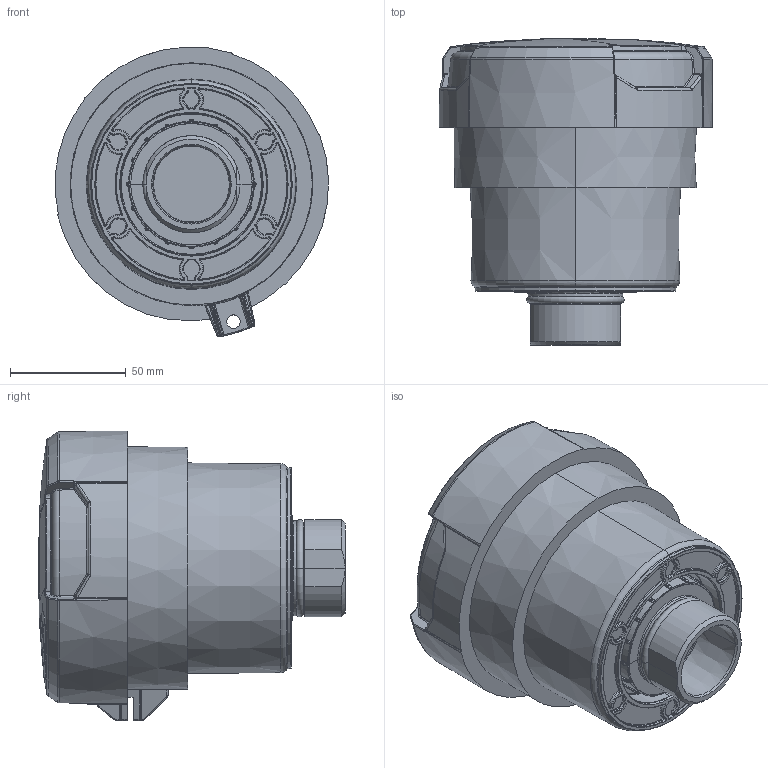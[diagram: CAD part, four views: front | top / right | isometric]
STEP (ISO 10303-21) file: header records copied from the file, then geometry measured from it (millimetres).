
FILE_DESCRIPTION((''),'2;1');
FILE_NAME('1000417934','2023-07-17T',('v.pichlmaier'),(''),'PRO/ENGINEER BY PARAMETRIC TECHNOLOGY CORPORATION, 2015110','PRO/ENGINEER BY PARAMETRIC TECHNOLOGY CORPORATION, 2015110','');
FILE_SCHEMA(('AUTOMOTIVE_DESIGN { 1 0 10303 214 1 1 1 1 }'));
Length unit declared in the file: millimetre
Products named in the file (1): 1000417934
Bounding box: 117.86 x 132.07 x 125.01 mm (x, y, z)
Volume: 893140.4 mm3; surface area: 66871.3 mm2
Topology: 1 solids, 2 shells, 1629 faces, 3826 edges, 2229 vertices
Faces by surface type: bspline 800, torus 223, plane 217, cylinder 163, cone 160, sphere 66
Entity records: 96362 total; most frequent: CARTESIAN_POINT 52984, ORIENTED_EDGE 7648, DIRECTION 5216, PRESENTATION_STYLE_ASSIGNMENT 3825, STYLED_ITEM 3825, CURVE_STYLE 3824, EDGE_CURVE 3824, AXIS2_PLACEMENT_3D 2264
